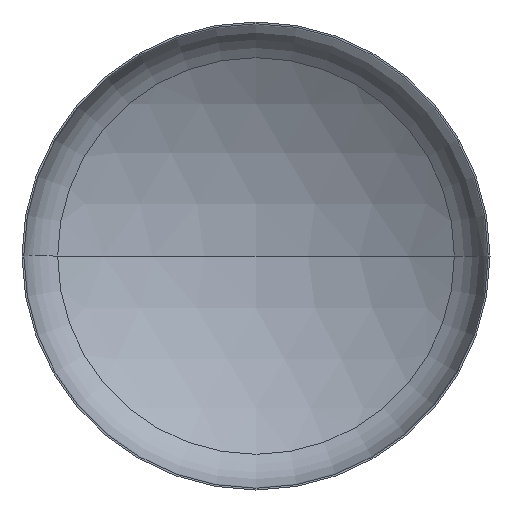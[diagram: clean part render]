
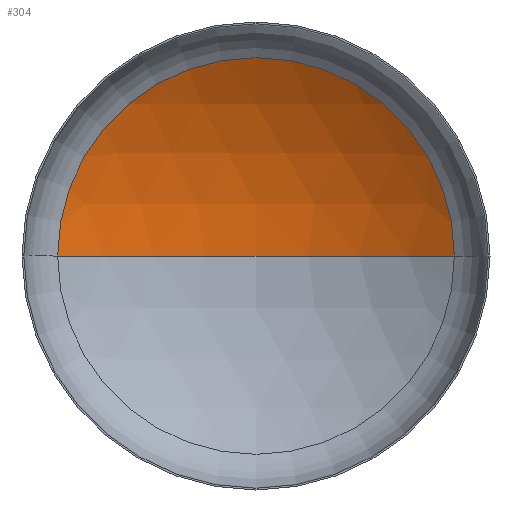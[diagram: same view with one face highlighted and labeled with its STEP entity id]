
A CAD part, front view. The second image highlights one B-rep face of the part: STEP entity #304.
In plain terms, the highlighted spherical face has radius 1040 mm.
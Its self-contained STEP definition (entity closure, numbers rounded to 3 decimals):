
#12 = DIRECTION ( 'NONE',  ( 1., 0., 0. ) ) ;
#14 = AXIS2_PLACEMENT_3D ( 'NONE', #132, #399, #140 ) ;
#22 = EDGE_LOOP ( 'NONE', ( #145, #64, #44 ) ) ;
#41 = AXIS2_PLACEMENT_3D ( 'NONE', #128, #337, #12 ) ;
#42 = CIRCLE ( 'NONE', #41, 1040. ) ;
#44 = ORIENTED_EDGE ( 'NONE', *, *, #89, .T. ) ;
#46 = AXIS2_PLACEMENT_3D ( 'NONE', #188, #390, #250 ) ;
#47 = AXIS2_PLACEMENT_3D ( 'NONE', #206, #200, #204 ) ;
#64 = ORIENTED_EDGE ( 'NONE', *, *, #91, .T. ) ;
#89 = EDGE_CURVE ( 'NONE', #277, #122, #249, .T. ) ;
#91 = EDGE_CURVE ( 'NONE', #180, #277, #183, .T. ) ;
#98 = EDGE_CURVE ( 'NONE', #180, #122, #42, .T. ) ;
#122 = VERTEX_POINT ( 'NONE', #187 ) ;
#128 = CARTESIAN_POINT ( 'NONE',  ( 0., -692.443, 0. ) ) ;
#132 = CARTESIAN_POINT ( 'NONE',  ( 0., -692.443, 0. ) ) ;
#140 = DIRECTION ( 'NONE',  ( -1., 0., 0. ) ) ;
#145 = ORIENTED_EDGE ( 'NONE', *, *, #98, .F. ) ;
#167 = CARTESIAN_POINT ( 'NONE',  ( 550.952, 189.629, 0. ) ) ;
#180 = VERTEX_POINT ( 'NONE', #196 ) ;
#183 = CIRCLE ( 'NONE', #46, 1040. ) ;
#187 = CARTESIAN_POINT ( 'NONE',  ( -550.952, 189.629, 0. ) ) ;
#188 = CARTESIAN_POINT ( 'NONE',  ( 0., -692.443, 0. ) ) ;
#196 = CARTESIAN_POINT ( 'NONE',  ( 0., 347.557, 0. ) ) ;
#200 = DIRECTION ( 'NONE',  ( 0., -1., 0. ) ) ;
#204 = DIRECTION ( 'NONE',  ( 1., 0., 0. ) ) ;
#206 = CARTESIAN_POINT ( 'NONE',  ( 0., 189.629, 0. ) ) ;
#249 = CIRCLE ( 'NONE', #47, 550.952 ) ;
#250 = DIRECTION ( 'NONE',  ( -1., 0., 0. ) ) ;
#277 = VERTEX_POINT ( 'NONE', #167 ) ;
#304 = ADVANCED_FACE ( 'NONE', ( #344 ), #338, .F. ) ;
#337 = DIRECTION ( 'NONE',  ( 0., 0., 1. ) ) ;
#338 = SPHERICAL_SURFACE ( 'NONE', #14, 1040. ) ;
#344 = FACE_OUTER_BOUND ( 'NONE', #22, .T. ) ;
#390 = DIRECTION ( 'NONE',  ( 0., 0., -1. ) ) ;
#399 = DIRECTION ( 'NONE',  ( 0., 0., -1. ) ) ;
